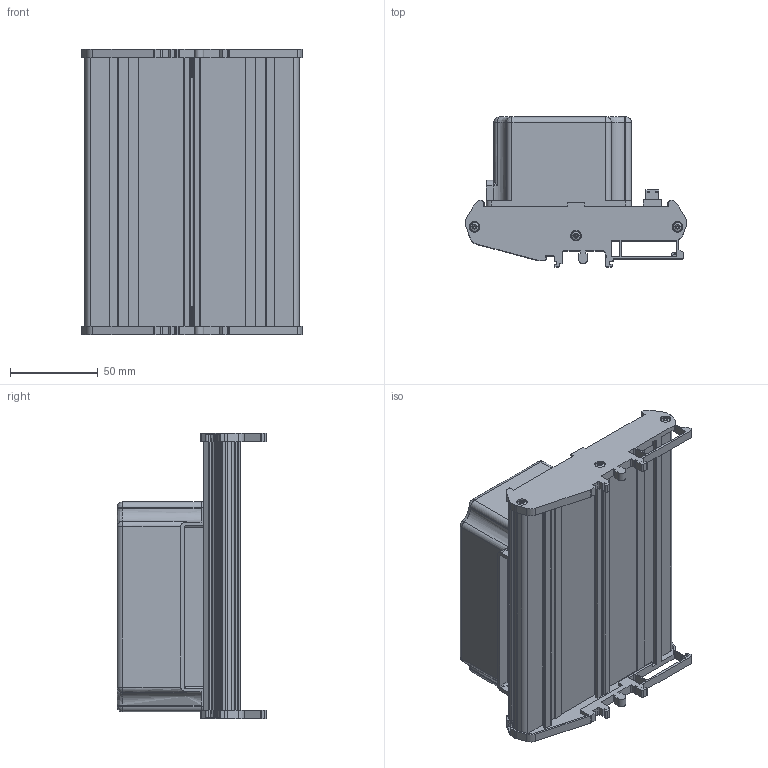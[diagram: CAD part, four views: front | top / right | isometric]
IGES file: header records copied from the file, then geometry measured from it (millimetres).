
Start section:  PTC IGES file: cd-tbx-68t.igs
Global section: file name: cd-tbx-68t.igs; native system: Pro/ENGINEER by Parametric Technology Corporation; preprocessor: 2006080; author: scarrasc; organization: Unknown; date: 080318.132748; units: inch
Bounding box: 125.4 x 85.23 x 162.49 mm (x, y, z)
Surface area: 170318.9 mm2 (no closed solid volume)
Topology: 0 solids, 0 shells, 1605 faces, 8596 edges, 8572 vertices
Faces by surface type: revolution 827, bspline 778
